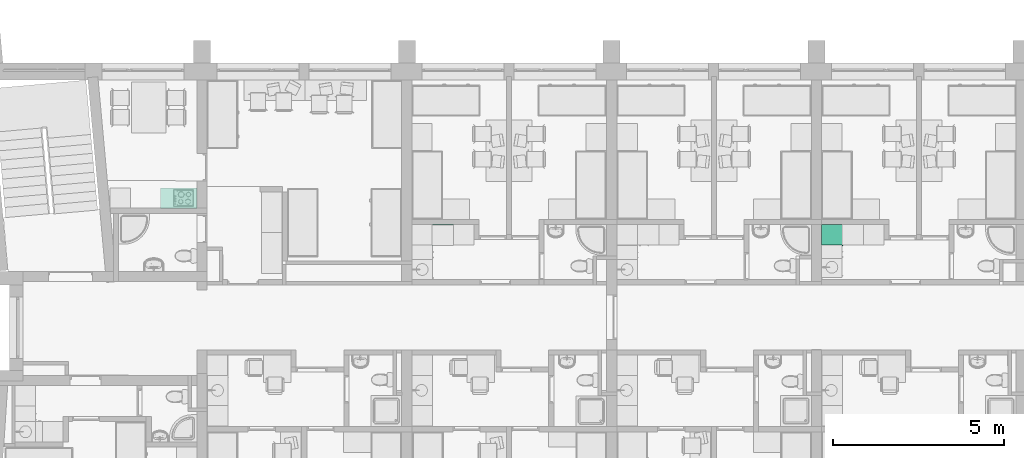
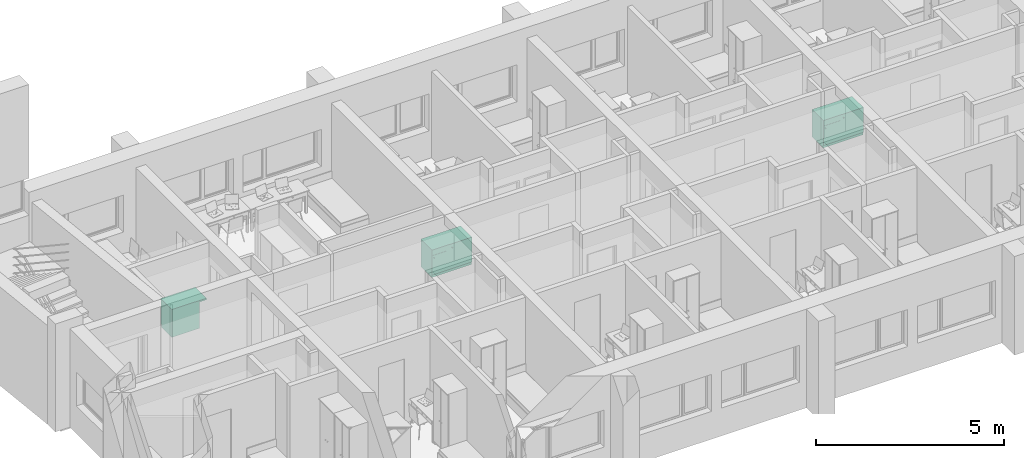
# One storey, part 50 of 165: 3 flow terminals.
"""IFC2X3 building model written with IfcOpenShell, lengths in millimetres."""

from ifc_helpers import new_model, entity, si_unit, converted_unit, money_unit, direction, frame, origin_with_axes, place, context, subcontext, project, spatial, faceted_brep, material, material_list, type_object, element, save


model = new_model("IFC2X3")

# Units and contexts
model_context = context("Model", 3, precision=1e-05, world=origin_with_axes(), true_north=direction((0.0, 1.0)))
body_context = subcontext(model_context, "Body", "Model", "MODEL_VIEW")
ifc_project = project(units=[si_unit("LENGTHUNIT", "METRE", prefix="MILLI"), si_unit("AREAUNIT", "SQUARE_METRE"), si_unit("VOLUMEUNIT", "CUBIC_METRE"), converted_unit("PLANEANGLEUNIT", "DEGREE", entity("IfcPlaneAngleMeasure", 0.0174532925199), si_unit("PLANEANGLEUNIT", "RADIAN"), dimensions=[0, 0, 0, 0, 0, 0, 0]), si_unit("SOLIDANGLEUNIT", "STERADIAN"), money_unit("USD"), converted_unit("TIMEUNIT", "Year", entity("IfcTimeMeasure", 31556926.0), si_unit("TIMEUNIT", "SECOND"), dimensions=[0, 0, 0, 0, 0, 0, 0]), si_unit("MASSUNIT", "GRAM"), si_unit("THERMODYNAMICTEMPERATUREUNIT", "DEGREE_CELSIUS"), si_unit("LUMINOUSINTENSITYUNIT", "LUMEN")], contexts=[model_context])

# Site, building, storey
site_placement = place(None, origin_with_axes())
site = spatial("IfcSite", under=ifc_project, at=site_placement, Name="Site", CompositionType="ELEMENT")
building_placement = place(site_placement, origin_with_axes())
building = spatial("IfcBuilding", under=site, at=building_placement, Name="Building", CompositionType="ELEMENT")
storey_placement = place(building_placement, frame((0.0, 0.0, 6300.0), z_axis=(0.0, 0.0, 1.0), x_axis=(1.0, 0.0, 0.0)))
storey = spatial("IfcBuildingStorey", under=building, at=storey_placement, Name="4KORRUS", CompositionType="ELEMENT", Elevation=6300.0)

# Flow terminals
ifc_material = material(Name="Background")
ifc_material_list = material_list([ifc_material])
sanitary_terminal_type = type_object("IfcSanitaryTerminalType", Name="Cabinet Base Single Door 19", PredefinedType="SINK")
flow_terminal_1_placement = place(storey_placement, frame((-49351.9913484, -8293.5660247, 0.0), z_axis=(0.0, 0.0, 1.0), x_axis=(-1.0, 0.0, 0.0)))
element("IfcFlowTerminal", 1, at=flow_terminal_1_placement, inside=storey, type_object=sanitary_terminal_type, material=ifc_material_list, Name="FU - 007", context=body_context, shape_type="Brep", body=[
    faceted_brep([(-20.0, 51.765, 710.0), (-20.0, 51.765, 730.0), (-825.351, 51.765, 730.0), (-825.351, 51.765, 710.0), (-20.0, 580.0, 710.0), (-20.0, 580.0, 730.0), (-825.351, 580.0, 730.0), (-825.351, 580.0, 710.0)], [[[0, 1, 2, 3]], [[4, 5, 1, 0]], [[1, 5, 6, 2]], [[3, 2, 6, 7]], [[0, 3, 7, 4]], [[7, 6, 5, 4]]]),
    faceted_brep([(0.0, 51.765, 0.0), (0.0, 51.765, 90.0), (-845.351, 51.765, 90.0), (-845.351, 51.765, 0.0), (0.0, 600.0, 0.0), (0.0, 600.0, 90.0), (-845.351, 600.0, 90.0), (-845.351, 600.0, 0.0)], [[[0, 1, 2, 3]], [[4, 5, 1, 0]], [[1, 5, 6, 2]], [[3, 2, 6, 7]], [[0, 3, 7, 4]], [[7, 6, 5, 4]]]),
    faceted_brep([(0.0, 51.765, 830.0), (0.0, 51.765, 850.0), (-20.0, 51.765, 850.0), (-20.0, 51.765, 830.0), (0.0, 600.0, 830.0), (0.0, 600.0, 850.0), (-20.0, 600.0, 850.0), (-825.351, 600.0, 850.0), (-845.351, 600.0, 850.0), (-845.351, 51.765, 850.0), (-825.351, 51.765, 850.0), (-825.351, 51.765, 830.0), (-845.351, 51.765, 830.0), (-845.351, 600.0, 830.0), (-825.351, 600.0, 830.0), (-20.0, 600.0, 830.0)], [[[0, 1, 2, 3]], [[4, 5, 1, 0]], [[1, 5, 6, 7, 8, 9, 10, 2]], [[3, 2, 10, 11]], [[0, 3, 11, 12, 13, 14, 15, 4]], [[15, 6, 5, 4]], [[14, 7, 6, 15]], [[13, 8, 7, 14]], [[12, 9, 8, 13]], [[11, 10, 9, 12]]]),
    faceted_brep([(0.0, 51.765, 90.0), (0.0, 51.765, 110.0), (-20.0, 51.765, 110.0), (-20.0, 51.765, 90.0), (0.0, 600.0, 90.0), (0.0, 600.0, 110.0), (-20.0, 600.0, 110.0), (-825.351, 600.0, 110.0), (-845.351, 600.0, 110.0), (-845.351, 51.765, 110.0), (-825.351, 51.765, 110.0), (-825.351, 51.765, 90.0), (-845.351, 51.765, 90.0), (-845.351, 600.0, 90.0), (-825.351, 600.0, 90.0), (-20.0, 600.0, 90.0)], [[[0, 1, 2, 3]], [[4, 5, 1, 0]], [[1, 5, 6, 7, 8, 9, 10, 2]], [[3, 2, 10, 11]], [[0, 3, 11, 12, 13, 14, 15, 4]], [[15, 6, 5, 4]], [[14, 7, 6, 15]], [[13, 8, 7, 14]], [[12, 9, 8, 13]], [[11, 10, 9, 12]]]),
    faceted_brep([(0.0, 51.765, 110.0), (0.0, 51.765, 830.0), (-20.0, 51.765, 830.0), (-20.0, 51.765, 110.0), (0.0, 600.0, 110.0), (0.0, 600.0, 830.0), (-845.351, 600.0, 830.0), (-845.351, 51.765, 830.0), (-825.351, 51.765, 830.0), (-825.351, 580.0, 830.0), (-20.0, 580.0, 830.0), (-20.0, 580.0, 110.0), (-825.351, 580.0, 110.0), (-825.351, 51.765, 110.0), (-845.351, 51.765, 110.0), (-845.351, 600.0, 110.0)], [[[0, 1, 2, 3]], [[4, 5, 1, 0]], [[1, 5, 6, 7, 8, 9, 10, 2]], [[3, 2, 10, 11]], [[0, 3, 11, 12, 13, 14, 15, 4]], [[15, 6, 5, 4]], [[14, 7, 6, 15]], [[13, 8, 7, 14]], [[12, 9, 8, 13]], [[11, 10, 9, 12]]]),
    faceted_brep([(-825.351, 51.765, 385.0), (-825.351, 51.765, 405.0), (-825.351, 580.0, 405.0), (-825.351, 580.0, 385.0), (-20.0, 51.765, 385.0), (-20.0, 51.765, 405.0), (-20.0, 580.0, 405.0), (-20.0, 580.0, 385.0)], [[[0, 1, 2, 3]], [[4, 5, 1, 0]], [[1, 5, 6, 2]], [[3, 2, 6, 7]], [[0, 3, 7, 4]], [[7, 6, 5, 4]]]),
    faceted_brep([(0.0, 0.0, 850.0), (0.0, 0.0, 900.0), (-1061.695, 0.0, 900.0), (-1061.695, 0.0, 850.0), (0.0, 600.0, 850.0), (0.0, 600.0, 900.0), (-1061.695, 600.0, 900.0), (-1061.695, 600.0, 850.0)], [[[0, 1, 2, 3]], [[4, 5, 1, 0]], [[1, 5, 6, 2]], [[3, 2, 6, 7]], [[0, 3, 7, 4]], [[7, 6, 5, 4]]]),
    faceted_brep([(-1.5, 51.765, 721.5), (-1.5, 31.765, 721.5), (-843.851, 31.765, 721.5), (-843.851, 51.765, 721.5), (-1.5, 51.765, 848.5), (-1.5, 31.765, 848.5), (-843.851, 31.765, 848.5), (-843.851, 51.765, 848.5)], [[[0, 1, 2, 3]], [[4, 5, 1, 0]], [[1, 5, 6, 2]], [[3, 2, 6, 7]], [[0, 3, 7, 4]], [[7, 6, 5, 4]]]),
    faceted_brep([(-418.084, 31.765, 773.913), (-422.676, 31.765, 773.0), (-427.268, 31.765, 773.913), (-431.161, 31.765, 776.515), (-433.762, 31.765, 780.408), (-434.676, 31.765, 785.0), (-433.762, 31.765, 789.592), (-431.161, 31.765, 793.485), (-427.268, 31.765, 796.087), (-422.676, 31.765, 797.0), (-418.084, 31.765, 796.087), (-414.19, 31.765, 793.485), (-411.589, 31.765, 789.592), (-410.676, 31.765, 785.0), (-411.589, 31.765, 780.408), (-414.19, 31.765, 776.515), (-418.084, 6.765, 773.913), (-422.676, 6.765, 773.0), (-427.268, 6.765, 773.913), (-431.161, 6.765, 776.515), (-433.762, 6.765, 780.408), (-434.676, 6.765, 785.0), (-433.762, 6.765, 789.592), (-431.161, 6.765, 793.485), (-427.268, 6.765, 796.087), (-422.676, 6.765, 797.0), (-418.084, 6.765, 796.087), (-414.19, 6.765, 793.485), (-411.589, 6.765, 789.592), (-410.676, 6.765, 785.0), (-411.589, 6.765, 780.408), (-414.19, 6.765, 776.515)], [[[0, 1, 2, 3, 4, 5, 6, 7, 8, 9, 10, 11, 12, 13, 14, 15]], [[0, 16, 17, 1]], [[1, 17, 18, 2]], [[2, 18, 19, 3]], [[3, 19, 20, 4]], [[4, 20, 21, 5]], [[5, 21, 22, 6]], [[6, 22, 23, 7]], [[7, 23, 24, 8]], [[8, 24, 25, 9]], [[9, 25, 26, 10]], [[10, 26, 27, 11]], [[11, 27, 28, 12]], [[12, 28, 29, 13]], [[13, 29, 30, 14]], [[14, 30, 31, 15]], [[15, 31, 16, 0]], [[16, 31, 30, 29, 28, 27, 26, 25, 24, 23, 22, 21, 20, 19, 18, 17]]]),
    faceted_brep([(-1.5, 51.765, 91.5), (-1.5, 31.765, 91.5), (-843.851, 31.765, 91.5), (-843.851, 51.765, 91.5), (-1.5, 51.765, 718.5), (-1.5, 31.765, 718.5), (-843.851, 31.765, 718.5), (-843.851, 51.765, 718.5)], [[[0, 1, 2, 3]], [[4, 5, 1, 0]], [[1, 5, 6, 2]], [[3, 2, 6, 7]], [[0, 3, 7, 4]], [[7, 6, 5, 4]]]),
    faceted_brep([(-804.938, 31.765, 636.908), (-805.851, 31.765, 641.5), (-804.938, 31.765, 646.092), (-802.337, 31.765, 649.985), (-798.444, 31.765, 652.587), (-793.851, 31.765, 653.5), (-789.259, 31.765, 652.587), (-785.366, 31.765, 649.985), (-782.765, 31.765, 646.092), (-781.851, 31.765, 641.5), (-782.765, 31.765, 636.908), (-785.366, 31.765, 633.015), (-789.259, 31.765, 630.413), (-793.851, 31.765, 629.5), (-798.444, 31.765, 630.413), (-802.337, 31.765, 633.015), (-804.938, 6.765, 636.908), (-805.851, 6.765, 641.5), (-804.938, 6.765, 646.092), (-802.337, 6.765, 649.985), (-798.444, 6.765, 652.587), (-793.851, 6.765, 653.5), (-789.259, 6.765, 652.587), (-785.366, 6.765, 649.985), (-782.765, 6.765, 646.092), (-781.851, 6.765, 641.5), (-782.765, 6.765, 636.908), (-785.366, 6.765, 633.015), (-789.259, 6.765, 630.413), (-793.851, 6.765, 629.5), (-798.444, 6.765, 630.413), (-802.337, 6.765, 633.015)], [[[0, 1, 2, 3, 4, 5, 6, 7, 8, 9, 10, 11, 12, 13, 14, 15]], [[0, 16, 17, 1]], [[1, 17, 18, 2]], [[2, 18, 19, 3]], [[3, 19, 20, 4]], [[4, 20, 21, 5]], [[5, 21, 22, 6]], [[6, 22, 23, 7]], [[7, 23, 24, 8]], [[8, 24, 25, 9]], [[9, 25, 26, 10]], [[10, 26, 27, 11]], [[11, 27, 28, 12]], [[12, 28, 29, 13]], [[13, 29, 30, 14]], [[14, 30, 31, 15]], [[15, 31, 16, 0]], [[16, 31, 30, 29, 28, 27, 26, 25, 24, 23, 22, 21, 20, 19, 18, 17]]]),
])
flow_terminal_2_placement = place(storey_placement, frame((-28765.7435229, -9966.37850445, 0.0), z_axis=(0.0, 0.0, 1.0), x_axis=(1.0, 0.0, 0.0)))
element("IfcFlowTerminal", 2, at=flow_terminal_2_placement, inside=storey, type_object=sanitary_terminal_type, material=ifc_material_list, Name="FU - 007", context=body_context, shape_type="Brep", body=[
    faceted_brep([(-20.0, 20.0, 710.0), (-20.0, 20.0, 730.0), (-1204.553, 20.0, 730.0), (-1204.553, 20.0, 710.0), (-20.0, 580.0, 710.0), (-20.0, 580.0, 730.0), (-1204.553, 580.0, 730.0), (-1204.553, 580.0, 710.0)], [[[0, 1, 2, 3]], [[4, 5, 1, 0]], [[1, 5, 6, 2]], [[3, 2, 6, 7]], [[0, 3, 7, 4]], [[7, 6, 5, 4]]]),
    faceted_brep([(0.0, 20.0, 0.0), (0.0, 20.0, 90.0), (-1224.553, 20.0, 90.0), (-1224.553, 20.0, 0.0), (0.0, 600.0, 0.0), (0.0, 600.0, 90.0), (-1224.553, 600.0, 90.0), (-1224.553, 600.0, 0.0)], [[[0, 1, 2, 3]], [[4, 5, 1, 0]], [[1, 5, 6, 2]], [[3, 2, 6, 7]], [[0, 3, 7, 4]], [[7, 6, 5, 4]]]),
    faceted_brep([(0.0, 20.0, 830.0), (0.0, 20.0, 850.0), (-20.0, 20.0, 850.0), (-20.0, 20.0, 830.0), (0.0, 600.0, 830.0), (0.0, 600.0, 850.0), (-20.0, 600.0, 850.0), (-1204.553, 600.0, 850.0), (-1224.553, 600.0, 850.0), (-1224.553, 20.0, 850.0), (-1204.553, 20.0, 850.0), (-1204.553, 20.0, 830.0), (-1224.553, 20.0, 830.0), (-1224.553, 600.0, 830.0), (-1204.553, 600.0, 830.0), (-20.0, 600.0, 830.0)], [[[0, 1, 2, 3]], [[4, 5, 1, 0]], [[1, 5, 6, 7, 8, 9, 10, 2]], [[3, 2, 10, 11]], [[0, 3, 11, 12, 13, 14, 15, 4]], [[15, 6, 5, 4]], [[14, 7, 6, 15]], [[13, 8, 7, 14]], [[12, 9, 8, 13]], [[11, 10, 9, 12]]]),
    faceted_brep([(0.0, 20.0, 90.0), (0.0, 20.0, 110.0), (-20.0, 20.0, 110.0), (-20.0, 20.0, 90.0), (0.0, 600.0, 90.0), (0.0, 600.0, 110.0), (-20.0, 600.0, 110.0), (-1204.553, 600.0, 110.0), (-1224.553, 600.0, 110.0), (-1224.553, 20.0, 110.0), (-1204.553, 20.0, 110.0), (-1204.553, 20.0, 90.0), (-1224.553, 20.0, 90.0), (-1224.553, 600.0, 90.0), (-1204.553, 600.0, 90.0), (-20.0, 600.0, 90.0)], [[[0, 1, 2, 3]], [[4, 5, 1, 0]], [[1, 5, 6, 7, 8, 9, 10, 2]], [[3, 2, 10, 11]], [[0, 3, 11, 12, 13, 14, 15, 4]], [[15, 6, 5, 4]], [[14, 7, 6, 15]], [[13, 8, 7, 14]], [[12, 9, 8, 13]], [[11, 10, 9, 12]]]),
    faceted_brep([(0.0, 20.0, 110.0), (0.0, 20.0, 830.0), (-20.0, 20.0, 830.0), (-20.0, 20.0, 110.0), (0.0, 600.0, 110.0), (0.0, 600.0, 830.0), (-1224.553, 600.0, 830.0), (-1224.553, 20.0, 830.0), (-1204.553, 20.0, 830.0), (-1204.553, 580.0, 830.0), (-20.0, 580.0, 830.0), (-20.0, 580.0, 110.0), (-1204.553, 580.0, 110.0), (-1204.553, 20.0, 110.0), (-1224.553, 20.0, 110.0), (-1224.553, 600.0, 110.0)], [[[0, 1, 2, 3]], [[4, 5, 1, 0]], [[1, 5, 6, 7, 8, 9, 10, 2]], [[3, 2, 10, 11]], [[0, 3, 11, 12, 13, 14, 15, 4]], [[15, 6, 5, 4]], [[14, 7, 6, 15]], [[13, 8, 7, 14]], [[12, 9, 8, 13]], [[11, 10, 9, 12]]]),
    faceted_brep([(-1204.553, 20.0, 385.0), (-1204.553, 20.0, 405.0), (-1204.553, 580.0, 405.0), (-1204.553, 580.0, 385.0), (-20.0, 20.0, 385.0), (-20.0, 20.0, 405.0), (-20.0, 580.0, 405.0), (-20.0, 580.0, 385.0)], [[[0, 1, 2, 3]], [[4, 5, 1, 0]], [[1, 5, 6, 2]], [[3, 2, 6, 7]], [[0, 3, 7, 4]], [[7, 6, 5, 4]]]),
    faceted_brep([(0.0, 0.0, 850.0), (0.0, 0.0, 900.0), (-1224.553, 0.0, 900.0), (-1224.553, 0.0, 850.0), (0.0, 600.0, 850.0), (0.0, 600.0, 900.0), (-1224.553, 600.0, 900.0), (-1224.553, 600.0, 850.0)], [[[0, 1, 2, 3]], [[4, 5, 1, 0]], [[1, 5, 6, 2]], [[3, 2, 6, 7]], [[0, 3, 7, 4]], [[7, 6, 5, 4]]]),
    faceted_brep([(-1.5, 20.0, 721.5), (-1.5, 0.0, 721.5), (-1223.053, 0.0, 721.5), (-1223.053, 20.0, 721.5), (-1.5, 20.0, 848.5), (-1.5, 0.0, 848.5), (-1223.053, 0.0, 848.5), (-1223.053, 20.0, 848.5)], [[[0, 1, 2, 3]], [[4, 5, 1, 0]], [[1, 5, 6, 2]], [[3, 2, 6, 7]], [[0, 3, 7, 4]], [[7, 6, 5, 4]]]),
    faceted_brep([(-607.684, 0.0, 773.913), (-612.277, 0.0, 773.0), (-616.869, 0.0, 773.913), (-620.762, 0.0, 776.515), (-623.363, 0.0, 780.408), (-624.277, 0.0, 785.0), (-623.363, 0.0, 789.592), (-620.762, 0.0, 793.485), (-616.869, 0.0, 796.087), (-612.277, 0.0, 797.0), (-607.684, 0.0, 796.087), (-603.791, 0.0, 793.485), (-601.19, 0.0, 789.592), (-600.277, 0.0, 785.0), (-601.19, 0.0, 780.408), (-603.791, 0.0, 776.515), (-607.684, -25.0, 773.913), (-612.277, -25.0, 773.0), (-616.869, -25.0, 773.913), (-620.762, -25.0, 776.515), (-623.363, -25.0, 780.408), (-624.277, -25.0, 785.0), (-623.363, -25.0, 789.592), (-620.762, -25.0, 793.485), (-616.869, -25.0, 796.087), (-612.277, -25.0, 797.0), (-607.684, -25.0, 796.087), (-603.791, -25.0, 793.485), (-601.19, -25.0, 789.592), (-600.277, -25.0, 785.0), (-601.19, -25.0, 780.408), (-603.791, -25.0, 776.515)], [[[0, 1, 2, 3, 4, 5, 6, 7, 8, 9, 10, 11, 12, 13, 14, 15]], [[0, 16, 17, 1]], [[1, 17, 18, 2]], [[2, 18, 19, 3]], [[3, 19, 20, 4]], [[4, 20, 21, 5]], [[5, 21, 22, 6]], [[6, 22, 23, 7]], [[7, 23, 24, 8]], [[8, 24, 25, 9]], [[9, 25, 26, 10]], [[10, 26, 27, 11]], [[11, 27, 28, 12]], [[12, 28, 29, 13]], [[13, 29, 30, 14]], [[14, 30, 31, 15]], [[15, 31, 16, 0]], [[16, 31, 30, 29, 28, 27, 26, 25, 24, 23, 22, 21, 20, 19, 18, 17]]]),
    faceted_brep([(-1.5, 20.0, 91.5), (-1.5, 0.0, 91.5), (-1223.053, 0.0, 91.5), (-1223.053, 20.0, 91.5), (-1.5, 20.0, 718.5), (-1.5, 0.0, 718.5), (-1223.053, 0.0, 718.5), (-1223.053, 20.0, 718.5)], [[[0, 1, 2, 3]], [[4, 5, 1, 0]], [[1, 5, 6, 2]], [[3, 2, 6, 7]], [[0, 3, 7, 4]], [[7, 6, 5, 4]]]),
    faceted_brep([(-1184.14, 0.0, 636.908), (-1185.053, 0.0, 641.5), (-1184.14, 0.0, 646.092), (-1181.538, 0.0, 649.985), (-1177.645, 0.0, 652.587), (-1173.053, 0.0, 653.5), (-1168.461, 0.0, 652.587), (-1164.568, 0.0, 649.985), (-1161.967, 0.0, 646.092), (-1161.053, 0.0, 641.5), (-1161.967, 0.0, 636.908), (-1164.568, 0.0, 633.015), (-1168.461, 0.0, 630.413), (-1173.053, 0.0, 629.5), (-1177.645, 0.0, 630.413), (-1181.538, 0.0, 633.015), (-1184.14, -25.0, 636.908), (-1185.053, -25.0, 641.5), (-1184.14, -25.0, 646.092), (-1181.538, -25.0, 649.985), (-1177.645, -25.0, 652.587), (-1173.053, -25.0, 653.5), (-1168.461, -25.0, 652.587), (-1164.568, -25.0, 649.985), (-1161.967, -25.0, 646.092), (-1161.053, -25.0, 641.5), (-1161.967, -25.0, 636.908), (-1164.568, -25.0, 633.015), (-1168.461, -25.0, 630.413), (-1173.053, -25.0, 629.5), (-1177.645, -25.0, 630.413), (-1181.538, -25.0, 633.015)], [[[0, 1, 2, 3, 4, 5, 6, 7, 8, 9, 10, 11, 12, 13, 14, 15]], [[0, 16, 17, 1]], [[1, 17, 18, 2]], [[2, 18, 19, 3]], [[3, 19, 20, 4]], [[4, 20, 21, 5]], [[5, 21, 22, 6]], [[6, 22, 23, 7]], [[7, 23, 24, 8]], [[8, 24, 25, 9]], [[9, 25, 26, 10]], [[10, 26, 27, 11]], [[11, 27, 28, 12]], [[12, 28, 29, 13]], [[13, 29, 30, 14]], [[14, 30, 31, 15]], [[15, 31, 16, 0]], [[16, 31, 30, 29, 28, 27, 26, 25, 24, 23, 22, 21, 20, 19, 18, 17]]]),
])
flow_terminal_3_placement = place(storey_placement, frame((-40772.0319183, -9967.37850445, 0.0), z_axis=(0.0, 0.0, 1.0), x_axis=(1.0, 0.0, 0.0)))
element("IfcFlowTerminal", 3, at=flow_terminal_3_placement, inside=storey, type_object=sanitary_terminal_type, material=ifc_material_list, Name="FU - 007", context=body_context, shape_type="Brep", body=[
    faceted_brep([(-20.0, 20.0, 710.0), (-20.0, 20.0, 730.0), (-1198.265, 20.0, 730.0), (-1198.265, 20.0, 710.0), (-20.0, 580.0, 710.0), (-20.0, 580.0, 730.0), (-1198.265, 580.0, 730.0), (-1198.265, 580.0, 710.0)], [[[0, 1, 2, 3]], [[4, 5, 1, 0]], [[1, 5, 6, 2]], [[3, 2, 6, 7]], [[0, 3, 7, 4]], [[7, 6, 5, 4]]]),
    faceted_brep([(0.0, 20.0, 0.0), (0.0, 20.0, 90.0), (-1218.265, 20.0, 90.0), (-1218.265, 20.0, 0.0), (0.0, 600.0, 0.0), (0.0, 600.0, 90.0), (-1218.265, 600.0, 90.0), (-1218.265, 600.0, 0.0)], [[[0, 1, 2, 3]], [[4, 5, 1, 0]], [[1, 5, 6, 2]], [[3, 2, 6, 7]], [[0, 3, 7, 4]], [[7, 6, 5, 4]]]),
    faceted_brep([(0.0, 20.0, 830.0), (0.0, 20.0, 850.0), (-20.0, 20.0, 850.0), (-20.0, 20.0, 830.0), (0.0, 600.0, 830.0), (0.0, 600.0, 850.0), (-20.0, 600.0, 850.0), (-1198.265, 600.0, 850.0), (-1218.265, 600.0, 850.0), (-1218.265, 20.0, 850.0), (-1198.265, 20.0, 850.0), (-1198.265, 20.0, 830.0), (-1218.265, 20.0, 830.0), (-1218.265, 600.0, 830.0), (-1198.265, 600.0, 830.0), (-20.0, 600.0, 830.0)], [[[0, 1, 2, 3]], [[4, 5, 1, 0]], [[1, 5, 6, 7, 8, 9, 10, 2]], [[3, 2, 10, 11]], [[0, 3, 11, 12, 13, 14, 15, 4]], [[15, 6, 5, 4]], [[14, 7, 6, 15]], [[13, 8, 7, 14]], [[12, 9, 8, 13]], [[11, 10, 9, 12]]]),
    faceted_brep([(0.0, 20.0, 90.0), (0.0, 20.0, 110.0), (-20.0, 20.0, 110.0), (-20.0, 20.0, 90.0), (0.0, 600.0, 90.0), (0.0, 600.0, 110.0), (-20.0, 600.0, 110.0), (-1198.265, 600.0, 110.0), (-1218.265, 600.0, 110.0), (-1218.265, 20.0, 110.0), (-1198.265, 20.0, 110.0), (-1198.265, 20.0, 90.0), (-1218.265, 20.0, 90.0), (-1218.265, 600.0, 90.0), (-1198.265, 600.0, 90.0), (-20.0, 600.0, 90.0)], [[[0, 1, 2, 3]], [[4, 5, 1, 0]], [[1, 5, 6, 7, 8, 9, 10, 2]], [[3, 2, 10, 11]], [[0, 3, 11, 12, 13, 14, 15, 4]], [[15, 6, 5, 4]], [[14, 7, 6, 15]], [[13, 8, 7, 14]], [[12, 9, 8, 13]], [[11, 10, 9, 12]]]),
    faceted_brep([(0.0, 20.0, 110.0), (0.0, 20.0, 830.0), (-20.0, 20.0, 830.0), (-20.0, 20.0, 110.0), (0.0, 600.0, 110.0), (0.0, 600.0, 830.0), (-1218.265, 600.0, 830.0), (-1218.265, 20.0, 830.0), (-1198.265, 20.0, 830.0), (-1198.265, 580.0, 830.0), (-20.0, 580.0, 830.0), (-20.0, 580.0, 110.0), (-1198.265, 580.0, 110.0), (-1198.265, 20.0, 110.0), (-1218.265, 20.0, 110.0), (-1218.265, 600.0, 110.0)], [[[0, 1, 2, 3]], [[4, 5, 1, 0]], [[1, 5, 6, 7, 8, 9, 10, 2]], [[3, 2, 10, 11]], [[0, 3, 11, 12, 13, 14, 15, 4]], [[15, 6, 5, 4]], [[14, 7, 6, 15]], [[13, 8, 7, 14]], [[12, 9, 8, 13]], [[11, 10, 9, 12]]]),
    faceted_brep([(-1198.265, 20.0, 385.0), (-1198.265, 20.0, 405.0), (-1198.265, 580.0, 405.0), (-1198.265, 580.0, 385.0), (-20.0, 20.0, 385.0), (-20.0, 20.0, 405.0), (-20.0, 580.0, 405.0), (-20.0, 580.0, 385.0)], [[[0, 1, 2, 3]], [[4, 5, 1, 0]], [[1, 5, 6, 2]], [[3, 2, 6, 7]], [[0, 3, 7, 4]], [[7, 6, 5, 4]]]),
    faceted_brep([(0.0, 0.0, 850.0), (0.0, 0.0, 900.0), (-1218.265, 0.0, 900.0), (-1218.265, 0.0, 850.0), (0.0, 600.0, 850.0), (0.0, 600.0, 900.0), (-1218.265, 600.0, 900.0), (-1218.265, 600.0, 850.0)], [[[0, 1, 2, 3]], [[4, 5, 1, 0]], [[1, 5, 6, 2]], [[3, 2, 6, 7]], [[0, 3, 7, 4]], [[7, 6, 5, 4]]]),
    faceted_brep([(-1.5, 20.0, 721.5), (-1.5, 0.0, 721.5), (-1216.765, 0.0, 721.5), (-1216.765, 20.0, 721.5), (-1.5, 20.0, 848.5), (-1.5, 0.0, 848.5), (-1216.765, 0.0, 848.5), (-1216.765, 20.0, 848.5)], [[[0, 1, 2, 3]], [[4, 5, 1, 0]], [[1, 5, 6, 2]], [[3, 2, 6, 7]], [[0, 3, 7, 4]], [[7, 6, 5, 4]]]),
    faceted_brep([(-604.54, 0.0, 773.913), (-609.132, 0.0, 773.0), (-613.725, 0.0, 773.913), (-617.618, 0.0, 776.515), (-620.219, 0.0, 780.408), (-621.132, 0.0, 785.0), (-620.219, 0.0, 789.592), (-617.618, 0.0, 793.485), (-613.725, 0.0, 796.087), (-609.132, 0.0, 797.0), (-604.54, 0.0, 796.087), (-600.647, 0.0, 793.485), (-598.046, 0.0, 789.592), (-597.132, 0.0, 785.0), (-598.046, 0.0, 780.408), (-600.647, 0.0, 776.515), (-604.54, -25.0, 773.913), (-609.132, -25.0, 773.0), (-613.725, -25.0, 773.913), (-617.618, -25.0, 776.515), (-620.219, -25.0, 780.408), (-621.132, -25.0, 785.0), (-620.219, -25.0, 789.592), (-617.618, -25.0, 793.485), (-613.725, -25.0, 796.087), (-609.132, -25.0, 797.0), (-604.54, -25.0, 796.087), (-600.647, -25.0, 793.485), (-598.046, -25.0, 789.592), (-597.132, -25.0, 785.0), (-598.046, -25.0, 780.408), (-600.647, -25.0, 776.515)], [[[0, 1, 2, 3, 4, 5, 6, 7, 8, 9, 10, 11, 12, 13, 14, 15]], [[0, 16, 17, 1]], [[1, 17, 18, 2]], [[2, 18, 19, 3]], [[3, 19, 20, 4]], [[4, 20, 21, 5]], [[5, 21, 22, 6]], [[6, 22, 23, 7]], [[7, 23, 24, 8]], [[8, 24, 25, 9]], [[9, 25, 26, 10]], [[10, 26, 27, 11]], [[11, 27, 28, 12]], [[12, 28, 29, 13]], [[13, 29, 30, 14]], [[14, 30, 31, 15]], [[15, 31, 16, 0]], [[16, 31, 30, 29, 28, 27, 26, 25, 24, 23, 22, 21, 20, 19, 18, 17]]]),
    faceted_brep([(-1.5, 20.0, 91.5), (-1.5, 0.0, 91.5), (-1216.765, 0.0, 91.5), (-1216.765, 20.0, 91.5), (-1.5, 20.0, 718.5), (-1.5, 0.0, 718.5), (-1216.765, 0.0, 718.5), (-1216.765, 20.0, 718.5)], [[[0, 1, 2, 3]], [[4, 5, 1, 0]], [[1, 5, 6, 2]], [[3, 2, 6, 7]], [[0, 3, 7, 4]], [[7, 6, 5, 4]]]),
    faceted_brep([(-1177.851, 0.0, 636.908), (-1178.765, 0.0, 641.5), (-1177.851, 0.0, 646.092), (-1175.25, 0.0, 649.985), (-1171.357, 0.0, 652.587), (-1166.765, 0.0, 653.5), (-1162.173, 0.0, 652.587), (-1158.28, 0.0, 649.985), (-1155.678, 0.0, 646.092), (-1154.765, 0.0, 641.5), (-1155.678, 0.0, 636.908), (-1158.28, 0.0, 633.015), (-1162.173, 0.0, 630.413), (-1166.765, 0.0, 629.5), (-1171.357, 0.0, 630.413), (-1175.25, 0.0, 633.015), (-1177.851, -25.0, 636.908), (-1178.765, -25.0, 641.5), (-1177.851, -25.0, 646.092), (-1175.25, -25.0, 649.985), (-1171.357, -25.0, 652.587), (-1166.765, -25.0, 653.5), (-1162.173, -25.0, 652.587), (-1158.28, -25.0, 649.985), (-1155.678, -25.0, 646.092), (-1154.765, -25.0, 641.5), (-1155.678, -25.0, 636.908), (-1158.28, -25.0, 633.015), (-1162.173, -25.0, 630.413), (-1166.765, -25.0, 629.5), (-1171.357, -25.0, 630.413), (-1175.25, -25.0, 633.015)], [[[0, 1, 2, 3, 4, 5, 6, 7, 8, 9, 10, 11, 12, 13, 14, 15]], [[0, 16, 17, 1]], [[1, 17, 18, 2]], [[2, 18, 19, 3]], [[3, 19, 20, 4]], [[4, 20, 21, 5]], [[5, 21, 22, 6]], [[6, 22, 23, 7]], [[7, 23, 24, 8]], [[8, 24, 25, 9]], [[9, 25, 26, 10]], [[10, 26, 27, 11]], [[11, 27, 28, 12]], [[12, 28, 29, 13]], [[13, 29, 30, 14]], [[14, 30, 31, 15]], [[15, 31, 16, 0]], [[16, 31, 30, 29, 28, 27, 26, 25, 24, 23, 22, 21, 20, 19, 18, 17]]]),
])

save(model, "model.ifc")
